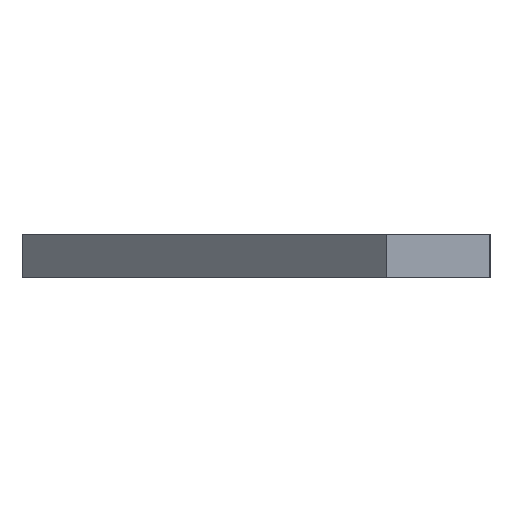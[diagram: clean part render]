
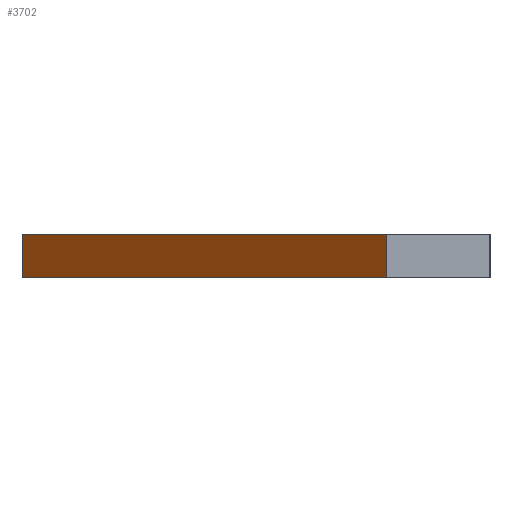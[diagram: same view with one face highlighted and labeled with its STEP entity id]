
A CAD part, left-side view. The second image highlights one B-rep face of the part: STEP entity #3702.
In plain terms, the highlighted planar face has unit normal (-0.705, 0.709, 0).
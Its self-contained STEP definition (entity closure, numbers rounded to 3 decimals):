
#123 = LINE ( 'NONE', #2652, #1714 ) ;
#146 = VERTEX_POINT ( 'NONE', #2427 ) ;
#172 = LINE ( 'NONE', #1801, #681 ) ;
#241 = CARTESIAN_POINT ( 'NONE',  ( 83.714, 106.787, 10. ) ) ;
#425 = VECTOR ( 'NONE', #1382, 1000. ) ;
#511 = ORIENTED_EDGE ( 'NONE', *, *, #3283, .F. ) ;
#526 = DIRECTION ( 'NONE',  ( -0.705, 0.709, 0. ) ) ;
#681 = VECTOR ( 'NONE', #1837, 1000. ) ;
#702 = VERTEX_POINT ( 'NONE', #1992 ) ;
#776 = VERTEX_POINT ( 'NONE', #2211 ) ;
#977 = LINE ( 'NONE', #1533, #3288 ) ;
#1284 = ORIENTED_EDGE ( 'NONE', *, *, #2277, .F. ) ;
#1303 = FACE_OUTER_BOUND ( 'NONE', #1628, .T. ) ;
#1367 = ORIENTED_EDGE ( 'NONE', *, *, #2517, .T. ) ;
#1382 = DIRECTION ( 'NONE',  ( 0., 0., -1. ) ) ;
#1523 = DIRECTION ( 'NONE',  ( 0.709, 0.705, 0. ) ) ;
#1533 = CARTESIAN_POINT ( 'NONE',  ( -11.792, 11.864, 0. ) ) ;
#1628 = EDGE_LOOP ( 'NONE', ( #511, #1284, #1367, #2619 ) ) ;
#1714 = VECTOR ( 'NONE', #1523, 1000. ) ;
#1797 = DIRECTION ( 'NONE',  ( 0.709, 0.705, 0. ) ) ;
#1801 = CARTESIAN_POINT ( 'NONE',  ( 0., 23.584, 10. ) ) ;
#1837 = DIRECTION ( 'NONE',  ( 0., 0., -1. ) ) ;
#1958 = DIRECTION ( 'NONE',  ( -0.709, -0.705, 0. ) ) ;
#1992 = CARTESIAN_POINT ( 'NONE',  ( 0., 23.584, 0. ) ) ;
#2200 = CARTESIAN_POINT ( 'NONE',  ( -11.792, 11.864, 10. ) ) ;
#2211 = CARTESIAN_POINT ( 'NONE',  ( 0., 23.584, 10. ) ) ;
#2241 = PLANE ( 'NONE',  #2626 ) ;
#2277 = EDGE_CURVE ( 'NONE', #776, #702, #172, .T. ) ;
#2427 = CARTESIAN_POINT ( 'NONE',  ( 83.714, 106.787, 0. ) ) ;
#2517 = EDGE_CURVE ( 'NONE', #776, #3381, #123, .T. ) ;
#2619 = ORIENTED_EDGE ( 'NONE', *, *, #3413, .T. ) ;
#2626 = AXIS2_PLACEMENT_3D ( 'NONE', #2200, #526, #1958 ) ;
#2652 = CARTESIAN_POINT ( 'NONE',  ( -11.792, 11.864, 10. ) ) ;
#2985 = CARTESIAN_POINT ( 'NONE',  ( 83.714, 106.787, 10. ) ) ;
#3262 = LINE ( 'NONE', #241, #425 ) ;
#3283 = EDGE_CURVE ( 'NONE', #702, #146, #977, .T. ) ;
#3288 = VECTOR ( 'NONE', #1797, 1000. ) ;
#3381 = VERTEX_POINT ( 'NONE', #2985 ) ;
#3413 = EDGE_CURVE ( 'NONE', #3381, #146, #3262, .T. ) ;
#3702 = ADVANCED_FACE ( 'NONE', ( #1303 ), #2241, .T. ) ;
